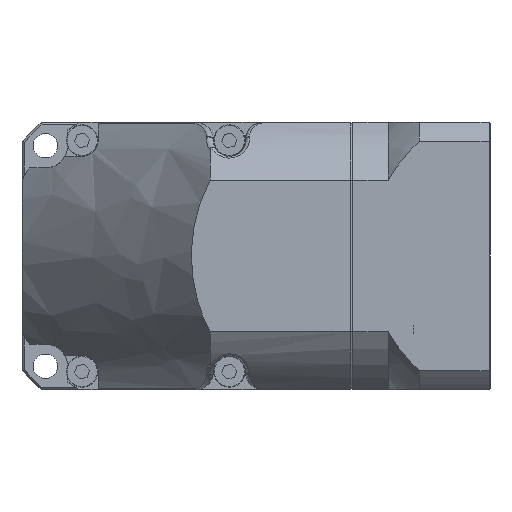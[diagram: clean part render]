
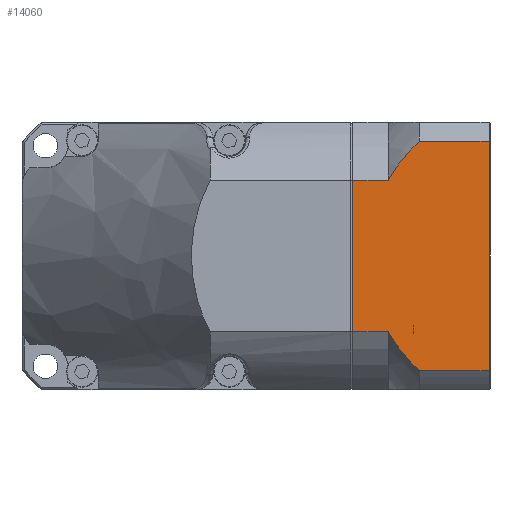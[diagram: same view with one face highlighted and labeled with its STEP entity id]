
A CAD part, front view. The second image highlights one B-rep face of the part: STEP entity #14060.
In plain terms, the highlighted planar face has unit normal (0, -1, 0) as drawn and (-1, 0, 0) by its records, which use the part's own axes.
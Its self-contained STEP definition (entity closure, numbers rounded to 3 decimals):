
#27 = CARTESIAN_POINT ( 'NONE',  ( -30., -32.128, 25.695 ) ) ;
#693 = DIRECTION ( 'NONE',  ( 0., -1., 0. ) ) ;
#895 = CARTESIAN_POINT ( 'NONE',  ( -30., -47.8, 25.695 ) ) ;
#1062 = CARTESIAN_POINT ( 'NONE',  ( -30., -17.2, -17.037 ) ) ;
#1606 = VECTOR ( 'NONE', #14950, 1000. ) ;
#1771 = DIRECTION ( 'NONE',  ( 0., 0., 1. ) ) ;
#1779 = AXIS2_PLACEMENT_3D ( 'NONE', #2075, #10653, #3320 ) ;
#2075 = CARTESIAN_POINT ( 'NONE',  ( -30., -55.366, 0. ) ) ;
#2307 = ORIENTED_EDGE ( 'NONE', *, *, #13996, .F. ) ;
#2479 = VERTEX_POINT ( 'NONE', #895 ) ;
#2481 = ORIENTED_EDGE ( 'NONE', *, *, #12995, .F. ) ;
#2737 = ORIENTED_EDGE ( 'NONE', *, *, #13896, .T. ) ;
#2739 = CARTESIAN_POINT ( 'NONE',  ( -30., -17.2, -30. ) ) ;
#3098 = CARTESIAN_POINT ( 'NONE',  ( -30., -47.8, -25.695 ) ) ;
#3320 = DIRECTION ( 'NONE',  ( 0., 0., 1. ) ) ;
#3347 = FACE_OUTER_BOUND ( 'NONE', #9481, .T. ) ;
#3464 = LINE ( 'NONE', #11550, #6332 ) ;
#3661 = DIRECTION ( 'NONE',  ( -1., 0., 0. ) ) ;
#3817 = DIRECTION ( 'NONE',  ( 1., 0., 0. ) ) ;
#3835 = VECTOR ( 'NONE', #11392, 1000. ) ;
#4641 = ORIENTED_EDGE ( 'NONE', *, *, #8729, .F. ) ;
#5074 = ORIENTED_EDGE ( 'NONE', *, *, #7746, .F. ) ;
#5559 = LINE ( 'NONE', #11658, #14927 ) ;
#5971 = VERTEX_POINT ( 'NONE', #27 ) ;
#6064 = CARTESIAN_POINT ( 'NONE',  ( -30., 15., -30. ) ) ;
#6085 = CARTESIAN_POINT ( 'NONE',  ( -30., -25.2, -17.037 ) ) ;
#6113 = VERTEX_POINT ( 'NONE', #7650 ) ;
#6332 = VECTOR ( 'NONE', #1771, 1000. ) ;
#6622 = VECTOR ( 'NONE', #11820, 1000. ) ;
#6861 = ORIENTED_EDGE ( 'NONE', *, *, #7923, .T. ) ;
#6986 = VECTOR ( 'NONE', #9644, 1000. ) ;
#7096 = LINE ( 'NONE', #7708, #3835 ) ;
#7650 = CARTESIAN_POINT ( 'NONE',  ( -30., -32.128, -25.695 ) ) ;
#7708 = CARTESIAN_POINT ( 'NONE',  ( -30., 0., 25.695 ) ) ;
#7746 = EDGE_CURVE ( 'NONE', #13756, #5971, #11870, .T. ) ;
#7840 = EDGE_CURVE ( 'NONE', #5971, #2479, #7096, .T. ) ;
#7923 = EDGE_CURVE ( 'NONE', #13514, #2479, #3464, .T. ) ;
#8023 = EDGE_CURVE ( 'NONE', #6113, #13514, #5559, .T. ) ;
#8115 = CARTESIAN_POINT ( 'NONE',  ( -30., 0., -17.037 ) ) ;
#8209 = VERTEX_POINT ( 'NONE', #1062 ) ;
#8508 = PLANE ( 'NONE',  #15677 ) ;
#8729 = EDGE_CURVE ( 'NONE', #6113, #12016, #12513, .T. ) ;
#9461 = ORIENTED_EDGE ( 'NONE', *, *, #7840, .F. ) ;
#9481 = EDGE_LOOP ( 'NONE', ( #2307, #2737, #2481, #4641, #11478, #6861, #9461, #5074 ) ) ;
#9644 = DIRECTION ( 'NONE',  ( 0., -1., 0. ) ) ;
#9868 = LINE ( 'NONE', #8115, #6622 ) ;
#10238 = LINE ( 'NONE', #12092, #6986 ) ;
#10576 = VERTEX_POINT ( 'NONE', #10665 ) ;
#10653 = DIRECTION ( 'NONE',  ( 1., 0., 0. ) ) ;
#10665 = CARTESIAN_POINT ( 'NONE',  ( -30., -17.2, 17.037 ) ) ;
#11145 = CARTESIAN_POINT ( 'NONE',  ( -30., -55.366, 0. ) ) ;
#11392 = DIRECTION ( 'NONE',  ( 0., -1., 0. ) ) ;
#11478 = ORIENTED_EDGE ( 'NONE', *, *, #8023, .T. ) ;
#11550 = CARTESIAN_POINT ( 'NONE',  ( -30., -47.8, -30. ) ) ;
#11658 = CARTESIAN_POINT ( 'NONE',  ( -30., 0., -25.695 ) ) ;
#11752 = LINE ( 'NONE', #2739, #1606 ) ;
#11820 = DIRECTION ( 'NONE',  ( 0., 1., 0. ) ) ;
#11870 = CIRCLE ( 'NONE', #15311, 34.644 ) ;
#12016 = VERTEX_POINT ( 'NONE', #6085 ) ;
#12092 = CARTESIAN_POINT ( 'NONE',  ( -30., 0., 17.037 ) ) ;
#12195 = DIRECTION ( 'NONE',  ( 0., 0., 1. ) ) ;
#12359 = DIRECTION ( 'NONE',  ( 0., 0., 1. ) ) ;
#12513 = CIRCLE ( 'NONE', #1779, 34.644 ) ;
#12995 = EDGE_CURVE ( 'NONE', #12016, #8209, #9868, .T. ) ;
#13417 = CARTESIAN_POINT ( 'NONE',  ( -30., -25.2, 17.037 ) ) ;
#13514 = VERTEX_POINT ( 'NONE', #3098 ) ;
#13756 = VERTEX_POINT ( 'NONE', #13417 ) ;
#13896 = EDGE_CURVE ( 'NONE', #10576, #8209, #11752, .T. ) ;
#13996 = EDGE_CURVE ( 'NONE', #10576, #13756, #10238, .T. ) ;
#14060 = ADVANCED_FACE ( 'NONE', ( #3347 ), #8508, .T. ) ;
#14927 = VECTOR ( 'NONE', #693, 1000. ) ;
#14950 = DIRECTION ( 'NONE',  ( 0., 0., -1. ) ) ;
#15311 = AXIS2_PLACEMENT_3D ( 'NONE', #11145, #3817, #12359 ) ;
#15677 = AXIS2_PLACEMENT_3D ( 'NONE', #6064, #3661, #12195 ) ;
